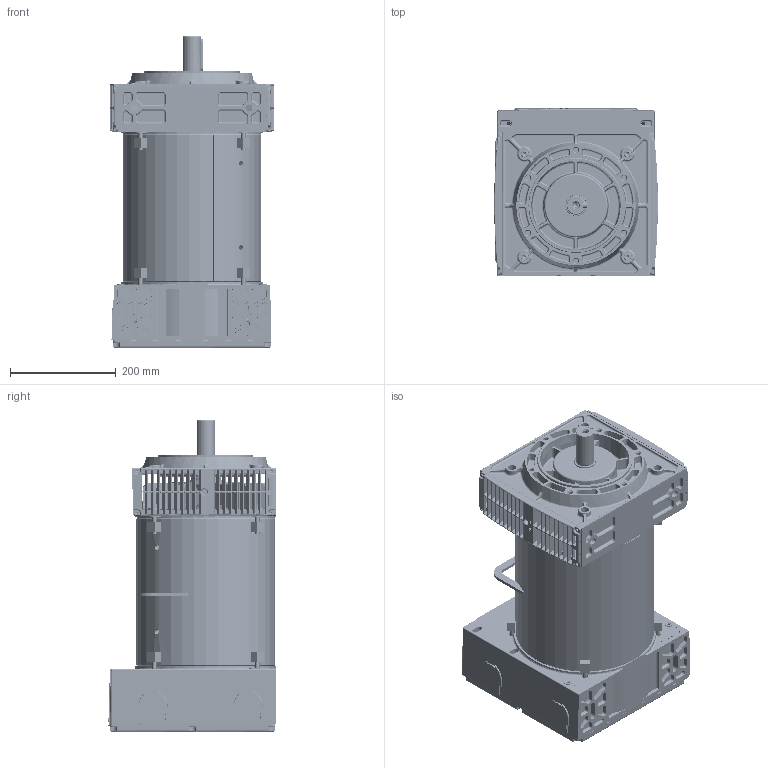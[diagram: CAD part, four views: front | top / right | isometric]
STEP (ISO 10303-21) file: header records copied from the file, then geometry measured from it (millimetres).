
FILE_DESCRIPTION (( 'STEP AP203' ), '1' );
FILE_NAME ('Y31M_10XX - M-MR-T-TR 132 M B34, step.STEP', '2016-10-14T12:54:07', ( 'Utente' ), ( '' ), 'SwSTEP 2.0', 'SolidWorks 2016', '' );
FILE_SCHEMA (( 'CONFIG_CONTROL_DESIGN' ));
Length unit declared in the file: millimetre
Products named in the file (1): Y31M_10XX - M-MR-T-TR 132 M B34, step
Bounding box: 310.37 x 316.74 x 589.8 mm (x, y, z)
Volume: 6426325.7 mm3; surface area: 2345243.7 mm2
Topology: 36 solids, 36 shells, 10744 faces, 27632 edges, 16976 vertices
Faces by surface type: plane 3720, cylinder 2688, bspline 1567, cone 1421, torus 1314, sphere 34
Entity records: 390319 total; most frequent: CARTESIAN_POINT 144490, ORIENTED_EDGE 54988, DIRECTION 47951, EDGE_CURVE 27494, AXIS2_PLACEMENT_3D 17319, VERTEX_POINT 16976, LINE 13313, VECTOR 13313
